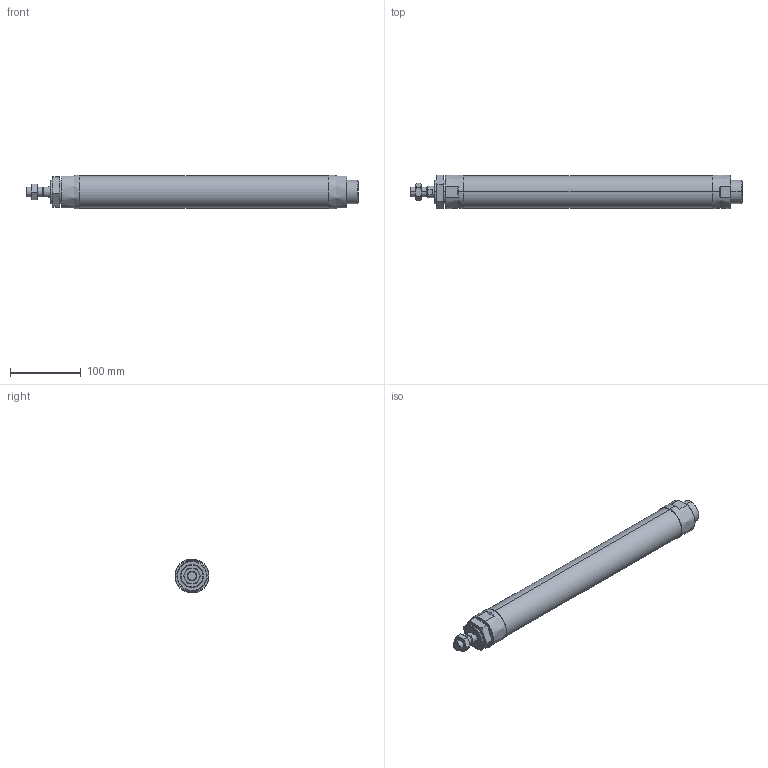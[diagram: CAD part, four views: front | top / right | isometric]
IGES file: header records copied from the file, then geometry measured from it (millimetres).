
Start section: SolidWorks IGES file using analytic representation for surfaces
Global section: file name: C:\Users\Toshiba\Desktop\J#2-40-300-N.IGS; native system: SolidWorks 2014; preprocessor: SolidWorks 2014; author: Toshiba; date: 160308.161013; units: millimetre
Bounding box: 469 x 48 x 48 mm (x, y, z)
Surface area: 73790.1 mm2 (no closed solid volume)
Topology: 0 solids, 0 shells, 94 faces, 1846 edges, 1842 vertices
Faces by surface type: bspline 57, revolution 37
